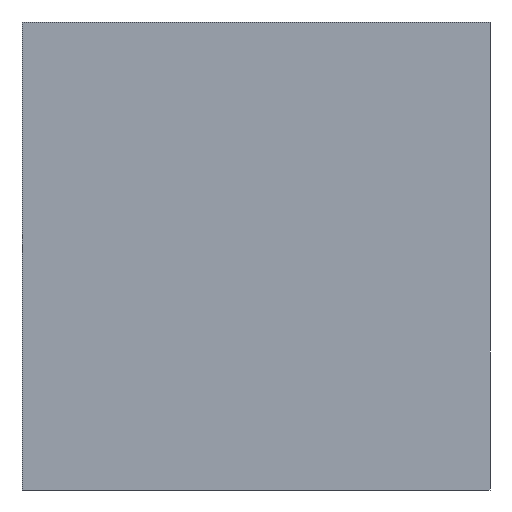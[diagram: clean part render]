
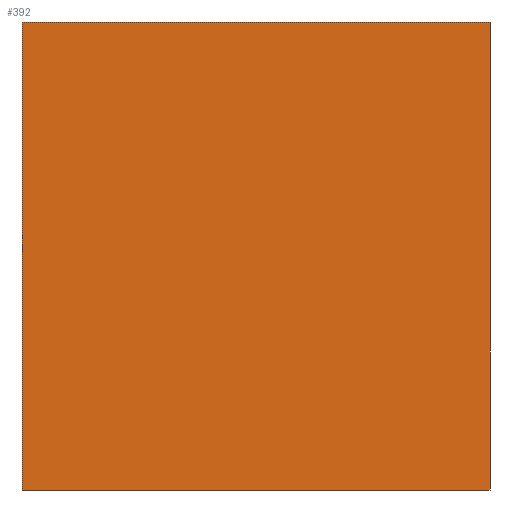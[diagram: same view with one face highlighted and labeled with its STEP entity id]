
A CAD part, left-side view. The second image highlights one B-rep face of the part: STEP entity #392.
In plain terms, the highlighted planar face has unit normal (-1, 0, 0).
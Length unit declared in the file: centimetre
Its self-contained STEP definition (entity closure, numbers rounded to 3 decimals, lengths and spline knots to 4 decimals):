
#8 = EDGE_CURVE ( 'NONE', #765, #575, #439, .T. ) ;
#29 = CARTESIAN_POINT ( 'NONE',  ( 0., 1000., 1000. ) ) ;
#42 = CARTESIAN_POINT ( 'NONE',  ( 0., 0., 0. ) ) ;
#81 = ORIENTED_EDGE ( 'NONE', *, *, #420, .F. ) ;
#101 = EDGE_CURVE ( 'NONE', #397, #765, #182, .T. ) ;
#136 = CARTESIAN_POINT ( 'NONE',  ( 0., 0., 1000. ) ) ;
#163 = CARTESIAN_POINT ( 'NONE',  ( 0., 0., 1000. ) ) ;
#182 = LINE ( 'NONE', #370, #516 ) ;
#250 = CARTESIAN_POINT ( 'NONE',  ( 0., 1000., 0. ) ) ;
#256 = CARTESIAN_POINT ( 'NONE',  ( 0., 1000., 0. ) ) ;
#263 = DIRECTION ( 'NONE',  ( 0., 0., -1. ) ) ;
#308 = ORIENTED_EDGE ( 'NONE', *, *, #8, .T. ) ;
#341 = DIRECTION ( 'NONE',  ( 0., -1., 0. ) ) ;
#370 = CARTESIAN_POINT ( 'NONE',  ( 0., 1000., 1000. ) ) ;
#379 = DIRECTION ( 'NONE',  ( 1., 0., 0. ) ) ;
#388 = LINE ( 'NONE', #635, #691 ) ;
#392 = ADVANCED_FACE ( 'NONE', ( #564 ), #767, .F. ) ;
#397 = VERTEX_POINT ( 'NONE', #694 ) ;
#416 = AXIS2_PLACEMENT_3D ( 'NONE', #29, #379, #503 ) ;
#420 = EDGE_CURVE ( 'NONE', #463, #575, #629, .T. ) ;
#421 = VECTOR ( 'NONE', #434, 100. ) ;
#434 = DIRECTION ( 'NONE',  ( 0., -1., 0. ) ) ;
#439 = LINE ( 'NONE', #250, #421 ) ;
#463 = VERTEX_POINT ( 'NONE', #136 ) ;
#486 = EDGE_CURVE ( 'NONE', #397, #463, #388, .T. ) ;
#503 = DIRECTION ( 'NONE',  ( 0., 0., -1. ) ) ;
#515 = ORIENTED_EDGE ( 'NONE', *, *, #101, .T. ) ;
#516 = VECTOR ( 'NONE', #263, 100. ) ;
#564 = FACE_OUTER_BOUND ( 'NONE', #639, .T. ) ;
#575 = VERTEX_POINT ( 'NONE', #42 ) ;
#583 = VECTOR ( 'NONE', #620, 100. ) ;
#620 = DIRECTION ( 'NONE',  ( 0., 0., -1. ) ) ;
#629 = LINE ( 'NONE', #163, #583 ) ;
#635 = CARTESIAN_POINT ( 'NONE',  ( 0., 1000., 1000. ) ) ;
#639 = EDGE_LOOP ( 'NONE', ( #308, #81, #760, #515 ) ) ;
#691 = VECTOR ( 'NONE', #341, 100. ) ;
#694 = CARTESIAN_POINT ( 'NONE',  ( 0., 1000., 1000. ) ) ;
#760 = ORIENTED_EDGE ( 'NONE', *, *, #486, .F. ) ;
#765 = VERTEX_POINT ( 'NONE', #256 ) ;
#767 = PLANE ( 'NONE',  #416 ) ;
